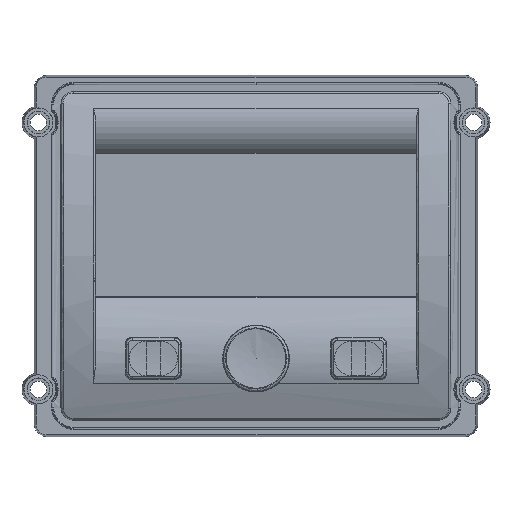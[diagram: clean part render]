
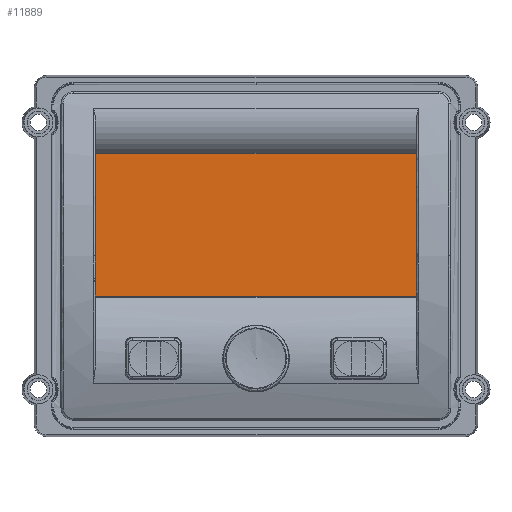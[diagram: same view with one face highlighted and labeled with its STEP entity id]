
A CAD part, top view. The second image highlights one B-rep face of the part: STEP entity #11889.
In plain terms, the highlighted planar face has unit normal (0, 0, -1).
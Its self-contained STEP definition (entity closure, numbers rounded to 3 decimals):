
#15 = CARTESIAN_POINT ( 'NONE',  ( -41.5, -69.915, -2.6 ) ) ;
#1261 = CARTESIAN_POINT ( 'NONE',  ( 0., -27.915, -2.6 ) ) ;
#1411 = DIRECTION ( 'NONE',  ( 0., -1., 0. ) ) ;
#2045 = PLANE ( 'NONE',  #25027 ) ;
#2423 = EDGE_CURVE ( 'NONE', #12695, #23352, #8551, .T. ) ;
#2844 = VECTOR ( 'NONE', #4425, 1000. ) ;
#3751 = CARTESIAN_POINT ( 'NONE',  ( 41.5, -27.915, -2.6 ) ) ;
#3963 = VECTOR ( 'NONE', #13019, 1000. ) ;
#4140 = CARTESIAN_POINT ( 'NONE',  ( -41.5, -69.915, -2.6 ) ) ;
#4156 = LINE ( 'NONE', #14473, #2844 ) ;
#4425 = DIRECTION ( 'NONE',  ( 0., 1., 0. ) ) ;
#4958 = LINE ( 'NONE', #1261, #3963 ) ;
#4974 = EDGE_CURVE ( 'NONE', #21365, #12695, #11826, .T. ) ;
#5031 = EDGE_CURVE ( 'NONE', #23352, #11746, #4156, .T. ) ;
#6381 = DIRECTION ( 'NONE',  ( 0., 0., 1. ) ) ;
#7834 = DIRECTION ( 'NONE',  ( 1., 0., 0. ) ) ;
#8423 = CARTESIAN_POINT ( 'NONE',  ( 0., -69.915, -2.6 ) ) ;
#8517 = ORIENTED_EDGE ( 'NONE', *, *, #20733, .F. ) ;
#8551 = LINE ( 'NONE', #8423, #16614 ) ;
#9972 = CARTESIAN_POINT ( 'NONE',  ( -41.5, -48.915, -2.6 ) ) ;
#10851 = VECTOR ( 'NONE', #1411, 1000. ) ;
#11169 = CARTESIAN_POINT ( 'NONE',  ( -41.5, -27.915, -2.6 ) ) ;
#11746 = VERTEX_POINT ( 'NONE', #3751 ) ;
#11826 = LINE ( 'NONE', #9972, #10851 ) ;
#11889 = ADVANCED_FACE ( 'NONE', ( #18172 ), #2045, .F. ) ;
#12695 = VERTEX_POINT ( 'NONE', #15 ) ;
#13019 = DIRECTION ( 'NONE',  ( -1., 0., 0. ) ) ;
#13413 = CARTESIAN_POINT ( 'NONE',  ( 41.5, -69.915, -2.6 ) ) ;
#14473 = CARTESIAN_POINT ( 'NONE',  ( 41.5, -48.915, -2.6 ) ) ;
#14910 = ORIENTED_EDGE ( 'NONE', *, *, #4974, .F. ) ;
#16561 = EDGE_LOOP ( 'NONE', ( #22491, #23466, #14910, #8517 ) ) ;
#16614 = VECTOR ( 'NONE', #24824, 1000. ) ;
#18172 = FACE_OUTER_BOUND ( 'NONE', #16561, .T. ) ;
#20733 = EDGE_CURVE ( 'NONE', #11746, #21365, #4958, .T. ) ;
#21365 = VERTEX_POINT ( 'NONE', #11169 ) ;
#22491 = ORIENTED_EDGE ( 'NONE', *, *, #5031, .F. ) ;
#23352 = VERTEX_POINT ( 'NONE', #13413 ) ;
#23466 = ORIENTED_EDGE ( 'NONE', *, *, #2423, .F. ) ;
#24824 = DIRECTION ( 'NONE',  ( 1., 0., 0. ) ) ;
#25027 = AXIS2_PLACEMENT_3D ( 'NONE', #4140, #6381, #7834 ) ;
